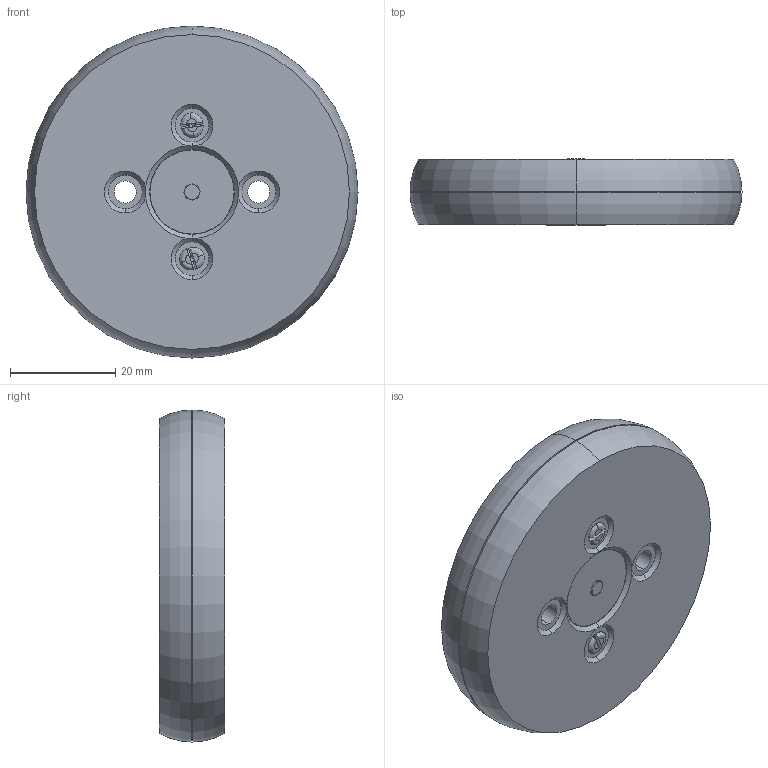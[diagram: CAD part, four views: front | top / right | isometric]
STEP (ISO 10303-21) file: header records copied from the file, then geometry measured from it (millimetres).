
FILE_DESCRIPTION (( 'STEP AP214' ), '1' );
FILE_NAME ('228-3196-2250.STEP', '2021-02-18T20:27:50', ( '' ), ( '' ), 'SwSTEP 2.0', 'SolidWorks 2019', '' );
FILE_SCHEMA (( 'AUTOMOTIVE_DESIGN' ));
Length unit declared in the file: millimetre
Products named in the file (5): 228-3196-2250; 228-2500-086 Rev3_228-3196-086; 228-2500-2248 Rev9_228-3196-2248; 228-2500-2249 Rev10_228-2500-2249; 228-2500-2251 Rev1
Assembly tree (7 placements, depth 2):
  228-3196-2250
    228-2500-2248 Rev9_228-3196-2248  x2
    228-2500-2249 Rev10_228-2500-2249
    228-2500-086 Rev3_228-3196-086  x2
    228-2500-2251 Rev1  x2
Bounding box: 63.2 x 12.49 x 63.2 mm (x, y, z)
Volume: 13251.4 mm3; surface area: 19905.8 mm2
Topology: 7 solids, 7 shells, 328 faces, 918 edges, 606 vertices
Faces by surface type: plane 146, cylinder 96, cone 56, bspline 22, torus 8
Entity records: 11172 total; most frequent: CARTESIAN_POINT 6642, ORIENTED_EDGE 952, DIRECTION 874, EDGE_CURVE 476, AXIS2_PLACEMENT_3D 349, VERTEX_POINT 313, EDGE_LOOP 189, CIRCLE 177
